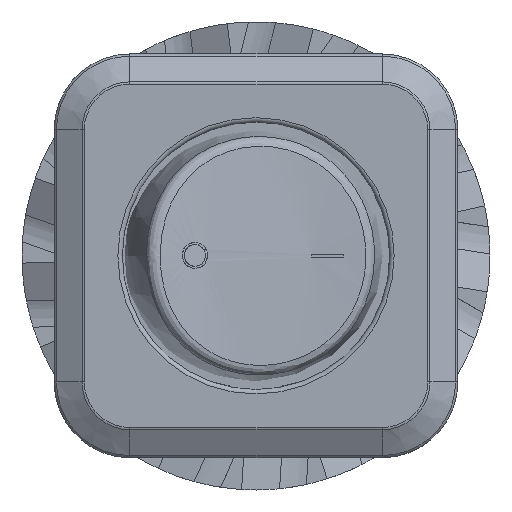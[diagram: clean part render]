
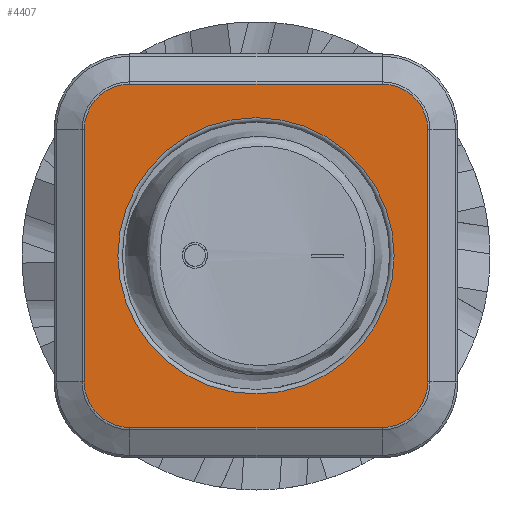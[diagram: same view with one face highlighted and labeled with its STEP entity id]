
A CAD part, top view. The second image highlights one B-rep face of the part: STEP entity #4407.
In plain terms, the highlighted planar face has unit normal (0, 0, 1).
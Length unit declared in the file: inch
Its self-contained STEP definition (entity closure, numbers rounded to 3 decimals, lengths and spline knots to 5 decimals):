
#247=PLANE('',#4843);
#370=FACE_BOUND('',#818,.T.);
#410=CIRCLE('',#4822,0.10232);
#415=CIRCLE('',#4829,0.10232);
#419=CIRCLE('',#4835,0.10232);
#422=CIRCLE('',#4840,0.10232);
#423=CIRCLE('',#4844,0.31);
#558=FACE_OUTER_BOUND('',#817,.T.);
#817=EDGE_LOOP('',(#3077,#3078,#3079,#3080,#3081,#3082,#3083,#3084));
#818=EDGE_LOOP('',(#3085));
#1084=LINE('',#6700,#1416);
#1086=LINE('',#6712,#1418);
#1088=LINE('',#6723,#1420);
#1089=LINE('',#6729,#1421);
#1416=VECTOR('',#5347,0.3937);
#1418=VECTOR('',#5361,0.3937);
#1420=VECTOR('',#5375,0.3937);
#1421=VECTOR('',#5384,0.3937);
#1866=VERTEX_POINT('',#6692);
#1867=VERTEX_POINT('',#6694);
#1868=VERTEX_POINT('',#6698);
#1869=VERTEX_POINT('',#6702);
#1871=VERTEX_POINT('',#6708);
#1873=VERTEX_POINT('',#6714);
#1875=VERTEX_POINT('',#6720);
#1876=VERTEX_POINT('',#6725);
#1877=VERTEX_POINT('',#6733);
#2329=EDGE_CURVE('',#1866,#1867,#410,.T.);
#2332=EDGE_CURVE('',#1867,#1868,#1084,.T.);
#2335=EDGE_CURVE('',#1868,#1869,#415,.T.);
#2338=EDGE_CURVE('',#1869,#1871,#1086,.T.);
#2341=EDGE_CURVE('',#1871,#1873,#419,.T.);
#2344=EDGE_CURVE('',#1873,#1875,#1088,.T.);
#2346=EDGE_CURVE('',#1875,#1876,#422,.T.);
#2347=EDGE_CURVE('',#1876,#1866,#1089,.T.);
#2349=EDGE_CURVE('',#1877,#1877,#423,.T.);
#3077=ORIENTED_EDGE('',*,*,#2329,.F.);
#3078=ORIENTED_EDGE('',*,*,#2347,.F.);
#3079=ORIENTED_EDGE('',*,*,#2346,.F.);
#3080=ORIENTED_EDGE('',*,*,#2344,.F.);
#3081=ORIENTED_EDGE('',*,*,#2341,.F.);
#3082=ORIENTED_EDGE('',*,*,#2338,.F.);
#3083=ORIENTED_EDGE('',*,*,#2335,.F.);
#3084=ORIENTED_EDGE('',*,*,#2332,.F.);
#3085=ORIENTED_EDGE('',*,*,#2349,.F.);
#4407=ADVANCED_FACE('',(#558,#370),#247,.T.);
#4822=AXIS2_PLACEMENT_3D('',#6695,#5339,#5340);
#4829=AXIS2_PLACEMENT_3D('',#6706,#5354,#5355);
#4835=AXIS2_PLACEMENT_3D('',#6718,#5368,#5369);
#4840=AXIS2_PLACEMENT_3D('',#6727,#5380,#5381);
#4843=AXIS2_PLACEMENT_3D('',#6732,#5388,#5389);
#4844=AXIS2_PLACEMENT_3D('',#6734,#5390,#5391);
#5339=DIRECTION('center_axis',(0.,0.,-1.));
#5340=DIRECTION('ref_axis',(-0.707,-0.707,0.));
#5347=DIRECTION('',(0.,1.,0.));
#5354=DIRECTION('center_axis',(0.,0.,-1.));
#5355=DIRECTION('ref_axis',(-0.707,0.707,0.));
#5361=DIRECTION('',(1.,0.,0.));
#5368=DIRECTION('center_axis',(0.,0.,-1.));
#5369=DIRECTION('ref_axis',(0.707,0.707,0.));
#5375=DIRECTION('',(0.,-1.,0.));
#5380=DIRECTION('center_axis',(0.,0.,-1.));
#5381=DIRECTION('ref_axis',(0.707,-0.707,0.));
#5384=DIRECTION('',(-1.,0.,0.));
#5388=DIRECTION('center_axis',(0.,0.,1.));
#5389=DIRECTION('ref_axis',(1.,0.,0.));
#5390=DIRECTION('center_axis',(0.,0.,1.));
#5391=DIRECTION('ref_axis',(-1.,0.,0.));
#6692=CARTESIAN_POINT('',(0.17,0.06768,0.09));
#6694=CARTESIAN_POINT('',(0.06768,0.17,0.09));
#6695=CARTESIAN_POINT('Origin',(0.17,0.17,0.09));
#6698=CARTESIAN_POINT('',(0.06768,0.736,0.09));
#6700=CARTESIAN_POINT('',(0.06768,0.56625,0.09));
#6702=CARTESIAN_POINT('',(0.17,0.83832,0.09));
#6706=CARTESIAN_POINT('Origin',(0.17,0.736,0.09));
#6708=CARTESIAN_POINT('',(0.736,0.83832,0.09));
#6712=CARTESIAN_POINT('',(0.56625,0.83832,0.09));
#6714=CARTESIAN_POINT('',(0.83832,0.736,0.09));
#6718=CARTESIAN_POINT('Origin',(0.736,0.736,0.09));
#6720=CARTESIAN_POINT('',(0.83832,0.17,0.09));
#6723=CARTESIAN_POINT('',(0.83832,0.33975,0.09));
#6725=CARTESIAN_POINT('',(0.736,0.06768,0.09));
#6727=CARTESIAN_POINT('Origin',(0.736,0.17,0.09));
#6729=CARTESIAN_POINT('',(0.33975,0.06768,0.09));
#6732=CARTESIAN_POINT('Origin',(0.453,0.453,0.09));
#6733=CARTESIAN_POINT('',(0.763,0.453,0.09));
#6734=CARTESIAN_POINT('Origin',(0.453,0.453,0.09));
